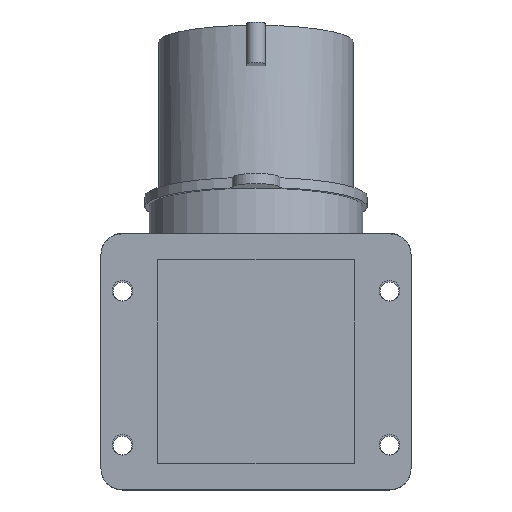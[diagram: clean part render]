
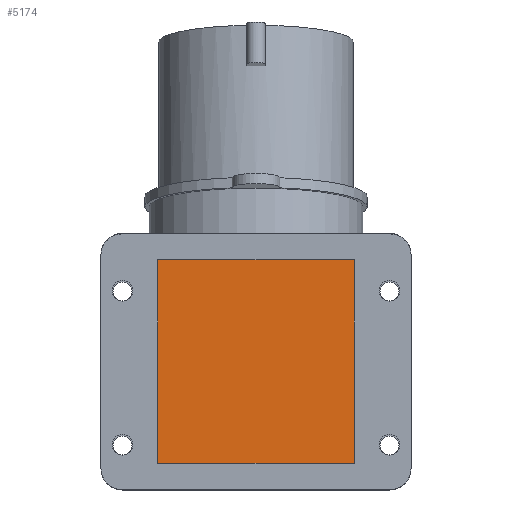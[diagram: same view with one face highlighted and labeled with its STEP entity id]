
A CAD part, front view. The second image highlights one B-rep face of the part: STEP entity #5174.
In plain terms, the highlighted planar face has unit normal (0, -1, 0).
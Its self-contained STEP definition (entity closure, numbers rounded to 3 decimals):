
#848=DIRECTION('',(1.,0.,0.));
#849=VECTOR('',#848,57.5);
#850=CARTESIAN_POINT('',(-28.75,0.,-29.75));
#851=LINE('432',#850,#849);
#852=DIRECTION('',(0.,0.,-1.));
#853=VECTOR('',#852,59.5);
#854=CARTESIAN_POINT('',(-28.75,0.,29.75));
#855=LINE('435',#854,#853);
#856=DIRECTION('',(-1.,0.,0.));
#857=VECTOR('',#856,57.5);
#858=CARTESIAN_POINT('',(28.75,0.,29.75));
#859=LINE('434',#858,#857);
#860=DIRECTION('',(0.,0.,1.));
#861=VECTOR('',#860,59.5);
#862=CARTESIAN_POINT('',(28.75,0.,-29.75));
#863=LINE('433',#862,#861);
#3435=CARTESIAN_POINT('',(-28.75,0.,-29.75));
#3436=CARTESIAN_POINT('',(28.75,0.,-29.75));
#3437=VERTEX_POINT('',#3435);
#3438=VERTEX_POINT('',#3436);
#3439=CARTESIAN_POINT('',(28.75,0.,29.75));
#3440=VERTEX_POINT('',#3439);
#3441=CARTESIAN_POINT('',(-28.75,0.,29.75));
#3442=VERTEX_POINT('',#3441);
#5160=CARTESIAN_POINT('',(0.,0.,0.));
#5161=DIRECTION('',(0.,1.,0.));
#5162=DIRECTION('',(1.,0.,0.));
#5163=AXIS2_PLACEMENT_3D('',#5160,#5161,#5162);
#5164=PLANE('234',#5163);
#5165=ORIENTED_EDGE('432',*,*,#5138,.F.);
#5167=ORIENTED_EDGE('435',*,*,#5166,.F.);
#5169=ORIENTED_EDGE('434',*,*,#5168,.F.);
#5171=ORIENTED_EDGE('433',*,*,#5170,.F.);
#5172=EDGE_LOOP('234',(#5165,#5167,#5169,#5171));
#5173=FACE_OUTER_BOUND('234',#5172,.F.);
#5138=EDGE_CURVE('432',#3437,#3438,#851,.T.);
#5166=EDGE_CURVE('435',#3442,#3437,#855,.T.);
#5168=EDGE_CURVE('434',#3440,#3442,#859,.T.);
#5170=EDGE_CURVE('433',#3438,#3440,#863,.T.);
#5174=ADVANCED_FACE('234',(#5173),#5164,.F.);
